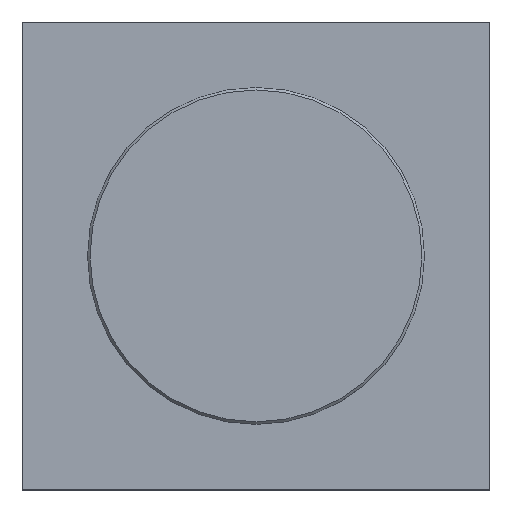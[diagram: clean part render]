
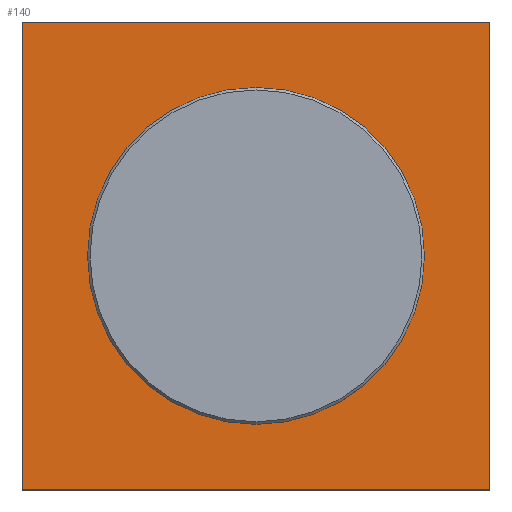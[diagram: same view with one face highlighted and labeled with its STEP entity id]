
A CAD part, top view. The second image highlights one B-rep face of the part: STEP entity #140.
In plain terms, the highlighted planar face has unit normal (0, 0, 1).
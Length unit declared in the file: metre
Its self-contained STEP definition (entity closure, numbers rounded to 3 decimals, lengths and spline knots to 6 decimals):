
#22=CIRCLE('',#163,0.02735);
#41=ORIENTED_EDGE('',*,*,#67,.F.);
#42=ORIENTED_EDGE('',*,*,#57,.F.);
#43=ORIENTED_EDGE('',*,*,#61,.T.);
#44=ORIENTED_EDGE('',*,*,#64,.T.);
#45=ORIENTED_EDGE('',*,*,#66,.F.);
#57=EDGE_CURVE('',#72,#73,#83,.T.);
#61=EDGE_CURVE('',#72,#75,#87,.T.);
#64=EDGE_CURVE('',#75,#77,#90,.T.);
#66=EDGE_CURVE('',#73,#77,#92,.T.);
#67=EDGE_CURVE('',#78,#78,#22,.T.);
#72=VERTEX_POINT('',#214);
#73=VERTEX_POINT('',#216);
#75=VERTEX_POINT('',#222);
#77=VERTEX_POINT('',#228);
#78=VERTEX_POINT('',#235);
#83=LINE('',#215,#95);
#87=LINE('',#223,#99);
#90=LINE('',#229,#102);
#92=LINE('',#232,#104);
#95=VECTOR('',#176,1.);
#99=VECTOR('',#182,1.);
#102=VECTOR('',#187,1.);
#104=VECTOR('',#191,1.);
#109=EDGE_LOOP('',(#41));
#110=EDGE_LOOP('',(#42,#43,#44,#45));
#121=FACE_BOUND('',#109,.T.);
#122=FACE_BOUND('',#110,.T.);
#133=PLANE('',#162);
#140=ADVANCED_FACE('',(#121,#122),#133,.T.);
#162=AXIS2_PLACEMENT_3D('',#233,#192,#193);
#163=AXIS2_PLACEMENT_3D('',#234,#194,#195);
#176=DIRECTION('',(0.,-1.,0.));
#182=DIRECTION('',(-1.,0.,0.));
#187=DIRECTION('',(0.,-1.,0.));
#191=DIRECTION('',(-1.,0.,0.));
#192=DIRECTION('',(0.,0.,1.));
#193=DIRECTION('',(1.,0.,0.));
#194=DIRECTION('',(0.,0.,1.));
#195=DIRECTION('',(1.,0.,0.));
#214=CARTESIAN_POINT('',(0.038,0.038,0.003));
#215=CARTESIAN_POINT('',(0.038,0.,0.003));
#216=CARTESIAN_POINT('',(0.038,-0.038,0.003));
#222=CARTESIAN_POINT('',(-0.038,0.038,0.003));
#223=CARTESIAN_POINT('',(0.,0.038,0.003));
#228=CARTESIAN_POINT('',(-0.038,-0.038,0.003));
#229=CARTESIAN_POINT('',(-0.038,0.,0.003));
#232=CARTESIAN_POINT('',(0.,-0.038,0.003));
#233=CARTESIAN_POINT('',(0.,0.,0.003));
#234=CARTESIAN_POINT('',(0.,0.,0.003));
#235=CARTESIAN_POINT('',(0.02735,0.,0.003));
